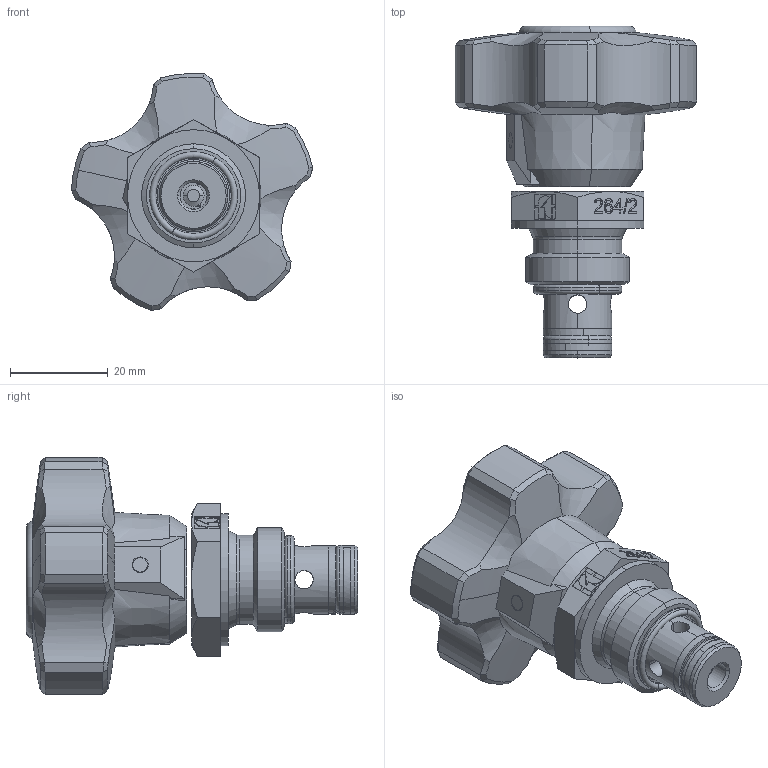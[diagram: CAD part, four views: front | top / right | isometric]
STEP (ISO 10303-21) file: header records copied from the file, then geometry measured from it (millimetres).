
FILE_DESCRIPTION (( 'STEP AP214' ), '1' );
FILE_NAME ('264-2-14volantino.STEP', '2014-11-11T21:01:48', ( '' ), ( '' ), 'SwSTEP 2.0', 'SolidWorks 2014', '' );
FILE_SCHEMA (( 'AUTOMOTIVE_DESIGN' ));
Length unit declared in the file: millimetre
Products named in the file (1): 264-2-14volantino
Bounding box: 49.32 x 67.8 x 48.43 mm (x, y, z)
Surface area: 10177.1 mm2 (no closed solid volume)
Topology: 0 solids, 10 shells, 427 faces, 1308 edges, 868 vertices
Faces by surface type: plane 214, cylinder 66, cone 66, bspline 59, torus 14, sphere 8
Entity records: 22439 total; most frequent: CARTESIAN_POINT 6756, ORIENTED_EDGE 2326, DIRECTION 1992, EDGE_CURVE 1308, VERTEX_POINT 868, LINE 748, VECTOR 748, AXIS2_PLACEMENT_3D 622
